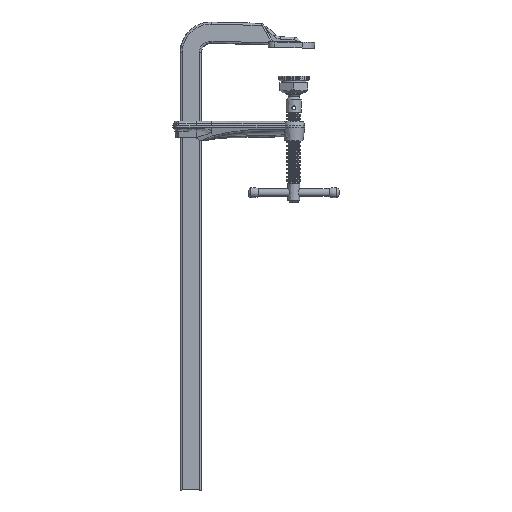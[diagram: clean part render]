
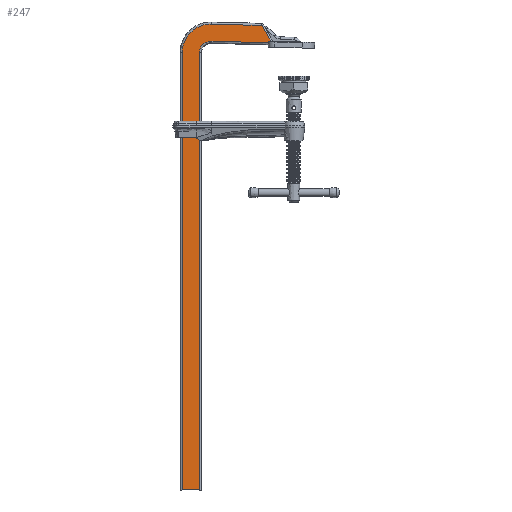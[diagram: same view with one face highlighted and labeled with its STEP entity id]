
A CAD part, front view. The second image highlights one B-rep face of the part: STEP entity #247.
In plain terms, the highlighted free-form (B-spline) face has degree [1, 1] with [2, 2] control points.
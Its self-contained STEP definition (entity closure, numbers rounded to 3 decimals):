
#51=CARTESIAN_POINT('',(25.085,5.375,-570.));
#52=VERTEX_POINT('',#51);
#53=CARTESIAN_POINT('',(2.815,5.375,-570.));
#54=VERTEX_POINT('',#53);
#55=CARTESIAN_POINT('',(25.085,5.375,-570.));
#56=CARTESIAN_POINT('',(23.179,5.375,-570.));
#57=CARTESIAN_POINT('',(13.95,5.375,-570.));
#58=CARTESIAN_POINT('',(4.721,5.375,-570.));
#59=CARTESIAN_POINT('',(2.815,5.375,-570.));
#60=B_SPLINE_CURVE_WITH_KNOTS('',1,(#55,#56,#57,#58,#59),.UNSPECIFIED.,.F.,.U.,(2,1,1,1,2),(0.,0.206,1.206,2.206,2.413),.UNSPECIFIED.);
#61=EDGE_CURVE('',#52,#54,#60,.T.);
#154=CARTESIAN_POINT('',(-418.421,5.375,98.24));
#155=CARTESIAN_POINT('',(-418.421,5.375,-630.858));
#156=CARTESIAN_POINT('',(310.677,5.375,98.24));
#157=CARTESIAN_POINT('',(310.677,5.375,-630.858));
#158=B_SPLINE_SURFACE_WITH_KNOTS('',1,1,((#154,#155),(#156,#157)),.PLANE_SURF.,.F.,.F.,.U.,(2,2),(2,2),(0.,1.),(0.,1.),.UNSPECIFIED.);
#159=CARTESIAN_POINT('',(-86.898,5.375,14.141));
#160=VERTEX_POINT('',#159);
#161=CARTESIAN_POINT('',(-87.924,5.375,15.114));
#162=VERTEX_POINT('',#161);
#163=CARTESIAN_POINT('',(-86.898,5.375,14.141));
#164=CARTESIAN_POINT('',(-86.904,5.375,14.391));
#165=CARTESIAN_POINT('',(-87.674,5.375,15.121));
#166=CARTESIAN_POINT('',(-87.924,5.375,15.114));
#167=B_SPLINE_CURVE_WITH_KNOTS('',2,(#163,#164,#165,#166),.UNSPECIFIED.,.F.,.U.,(3,1,3),(0.,0.5,1.),.UNSPECIFIED.);
#168=EDGE_CURVE('',#160,#162,#167,.T.);
#169=ORIENTED_EDGE('',*,*,#168,.T.);
#170=CARTESIAN_POINT('',(-90.058,5.375,15.059));
#171=VERTEX_POINT('',#170);
#172=CARTESIAN_POINT('',(-90.058,5.375,15.059));
#173=CARTESIAN_POINT('',(-87.924,5.375,15.114));
#174=B_SPLINE_CURVE_WITH_KNOTS('',1,(#172,#173),.POLYLINE_FORM.,.F.,.U.,(2,2),(0.083,0.826),.UNSPECIFIED.);
#175=EDGE_CURVE('',#171,#162,#174,.T.);
#176=ORIENTED_EDGE('',*,*,#175,.F.);
#177=CARTESIAN_POINT('',(-79.053,5.375,35.342));
#178=VERTEX_POINT('',#177);
#179=CARTESIAN_POINT('',(-79.053,5.375,35.342));
#180=CARTESIAN_POINT('',(-79.235,5.375,34.99));
#181=CARTESIAN_POINT('',(-79.578,5.375,34.36));
#182=CARTESIAN_POINT('',(-79.96,5.375,33.656));
#183=CARTESIAN_POINT('',(-80.532,5.375,32.603));
#184=CARTESIAN_POINT('',(-81.39,5.375,31.023));
#185=CARTESIAN_POINT('',(-82.676,5.375,28.654));
#186=CARTESIAN_POINT('',(-84.606,5.375,25.099));
#187=CARTESIAN_POINT('',(-87.378,5.375,19.995));
#188=CARTESIAN_POINT('',(-89.525,5.375,16.041));
#189=CARTESIAN_POINT('',(-90.058,5.375,15.059));
#190=B_SPLINE_CURVE_WITH_KNOTS('',2,(#179,#180,#181,#182,#183,#184,#185,#186,#187,#188,#189),.UNSPECIFIED.,.F.,.U.,(3,1,1,1,1,1,1,1,1,3),(0.,0.025,0.045,0.076,0.121,0.189,0.292,0.445,0.659,0.73),.UNSPECIFIED.);
#191=EDGE_CURVE('',#178,#171,#190,.T.);
#192=ORIENTED_EDGE('',*,*,#191,.F.);
#193=CARTESIAN_POINT('',(-12.971,5.375,37.072));
#194=VERTEX_POINT('',#193);
#195=CARTESIAN_POINT('',(-12.971,5.375,37.072));
#196=CARTESIAN_POINT('',(-79.053,5.375,35.342));
#197=B_SPLINE_CURVE_WITH_KNOTS('',1,(#195,#196),.POLYLINE_FORM.,.F.,.U.,(2,2),(0.,0.551),.UNSPECIFIED.);
#198=EDGE_CURVE('',#194,#178,#197,.T.);
#199=ORIENTED_EDGE('',*,*,#198,.F.);
#200=CARTESIAN_POINT('',(25.085,5.375,0.));
#201=VERTEX_POINT('',#200);
#202=CARTESIAN_POINT('',(-12.971,5.375,37.072));
#203=CARTESIAN_POINT('',(2.67,5.375,37.482));
#204=CARTESIAN_POINT('',(13.877,5.375,26.564));
#205=CARTESIAN_POINT('',(25.085,5.375,15.646));
#206=CARTESIAN_POINT('',(25.085,5.375,0.));
#207=(BOUNDED_CURVE()B_SPLINE_CURVE(2,(#202,#203,#204,#205,#206),.CIRCULAR_ARC.,.F.,.U.)B_SPLINE_CURVE_WITH_KNOTS((3,2,3),(0.,0.5,1.),.UNSPECIFIED.)CURVE()GEOMETRIC_REPRESENTATION_ITEM()RATIONAL_B_SPLINE_CURVE((1.,0.921,1.,0.921,1.))REPRESENTATION_ITEM(''));
#208=EDGE_CURVE('',#194,#201,#207,.T.);
#209=ORIENTED_EDGE('',*,*,#208,.T.);
#210=CARTESIAN_POINT('',(25.085,5.375,0.));
#211=CARTESIAN_POINT('',(25.085,5.375,-570.));
#212=B_SPLINE_CURVE_WITH_KNOTS('',1,(#210,#211),.POLYLINE_FORM.,.F.,.U.,(2,2),(0.,1.),.UNSPECIFIED.);
#213=EDGE_CURVE('',#201,#52,#212,.T.);
#214=ORIENTED_EDGE('',*,*,#213,.T.);
#215=ORIENTED_EDGE('',*,*,#61,.T.);
#216=CARTESIAN_POINT('',(2.815,5.375,0.));
#217=VERTEX_POINT('',#216);
#218=CARTESIAN_POINT('',(2.815,5.375,0.));
#219=CARTESIAN_POINT('',(2.815,5.375,-570.));
#220=B_SPLINE_CURVE_WITH_KNOTS('',1,(#218,#219),.POLYLINE_FORM.,.F.,.U.,(2,2),(0.,1.),.UNSPECIFIED.);
#221=EDGE_CURVE('',#217,#54,#220,.T.);
#222=ORIENTED_EDGE('',*,*,#221,.F.);
#223=CARTESIAN_POINT('',(-12.388,5.375,14.81));
#224=VERTEX_POINT('',#223);
#225=CARTESIAN_POINT('',(-12.388,5.375,14.81));
#226=CARTESIAN_POINT('',(-6.139,5.375,14.974));
#227=CARTESIAN_POINT('',(-1.662,5.375,10.612));
#228=CARTESIAN_POINT('',(2.815,5.375,6.251));
#229=CARTESIAN_POINT('',(2.815,5.375,0.));
#230=(BOUNDED_CURVE()B_SPLINE_CURVE(2,(#225,#226,#227,#228,#229),.UNSPECIFIED.,.F.,.U.)B_SPLINE_CURVE_WITH_KNOTS((3,2,3),(0.,0.5,1.),.UNSPECIFIED.)CURVE()GEOMETRIC_REPRESENTATION_ITEM()RATIONAL_B_SPLINE_CURVE((1.,0.921,1.,0.921,1.))REPRESENTATION_ITEM(''));
#231=EDGE_CURVE('',#224,#217,#230,.T.);
#232=ORIENTED_EDGE('',*,*,#231,.F.);
#233=CARTESIAN_POINT('',(-86.864,5.375,12.86));
#234=VERTEX_POINT('',#233);
#235=CARTESIAN_POINT('',(-12.388,5.375,14.81));
#236=CARTESIAN_POINT('',(-86.864,5.375,12.86));
#237=B_SPLINE_CURVE_WITH_KNOTS('',1,(#235,#236),.POLYLINE_FORM.,.F.,.U.,(2,2),(0.,0.621),.UNSPECIFIED.);
#238=EDGE_CURVE('',#224,#234,#237,.T.);
#239=ORIENTED_EDGE('',*,*,#238,.T.);
#240=CARTESIAN_POINT('',(-86.898,5.375,14.141));
#241=CARTESIAN_POINT('',(-86.864,5.375,12.86));
#242=B_SPLINE_CURVE_WITH_KNOTS('',1,(#240,#241),.POLYLINE_FORM.,.F.,.U.,(2,2),(0.952,1.),.UNSPECIFIED.);
#243=EDGE_CURVE('',#160,#234,#242,.T.);
#244=ORIENTED_EDGE('',*,*,#243,.F.);
#245=EDGE_LOOP('',(#169,#176,#192,#199,#209,#214,#215,#222,#232,#239,#244));
#246=FACE_OUTER_BOUND('',#245,.T.);
#247=ADVANCED_FACE('',(#246),#158,.T.);
